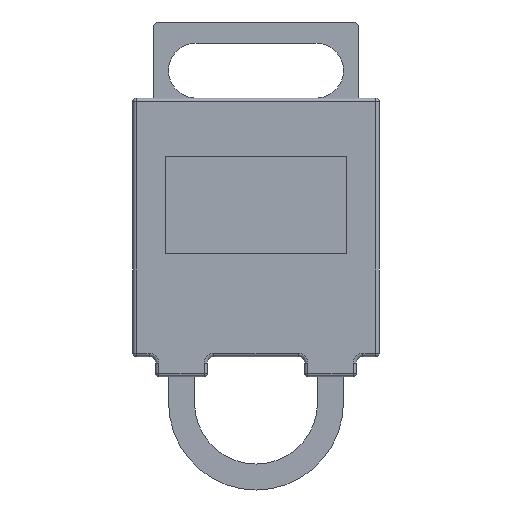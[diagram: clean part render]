
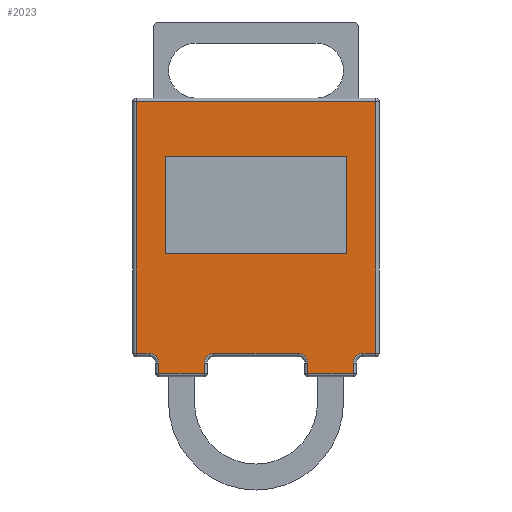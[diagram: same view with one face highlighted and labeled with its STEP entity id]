
A CAD part, front view. The second image highlights one B-rep face of the part: STEP entity #2023.
In plain terms, the highlighted planar face has unit normal (0, -1, 0).
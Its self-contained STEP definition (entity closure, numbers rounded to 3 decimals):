
#156=DIRECTION('',(1.,0.,0.));
#157=VECTOR('',#156,7.);
#158=CARTESIAN_POINT('',(96.44,56.691,7.25));
#159=LINE('',#158,#157);
#179=DIRECTION('',(0.,0.,1.));
#180=VECTOR('',#179,1.6);
#181=CARTESIAN_POINT('',(103.44,56.691,7.25));
#182=LINE('',#181,#180);
#198=CARTESIAN_POINT('',(104.94,56.691,8.85));
#199=DIRECTION('',(0.,-1.,0.));
#200=DIRECTION('',(0.,0.,1.));
#201=AXIS2_PLACEMENT_3D('',#198,#199,#200);
#203=CARTESIAN_POINT('',(94.94,56.691,8.85));
#204=DIRECTION('',(0.,-1.,0.));
#205=DIRECTION('',(1.,0.,0.));
#206=AXIS2_PLACEMENT_3D('',#203,#204,#205);
#208=CARTESIAN_POINT('',(81.94,56.691,8.85));
#209=DIRECTION('',(0.,-1.,0.));
#210=DIRECTION('',(0.,0.,1.));
#211=AXIS2_PLACEMENT_3D('',#208,#209,#210);
#213=CARTESIAN_POINT('',(71.94,56.691,8.85));
#214=DIRECTION('',(0.,-1.,0.));
#215=DIRECTION('',(1.,0.,0.));
#216=AXIS2_PLACEMENT_3D('',#213,#214,#215);
#222=DIRECTION('',(0.,0.,-1.));
#223=VECTOR('',#222,1.6);
#224=CARTESIAN_POINT('',(96.44,56.691,8.85));
#225=LINE('',#224,#223);
#260=DIRECTION('',(1.,0.,0.));
#261=VECTOR('',#260,13.);
#262=CARTESIAN_POINT('',(81.94,56.691,10.35));
#263=LINE('',#262,#261);
#283=DIRECTION('',(0.,0.,1.));
#284=VECTOR('',#283,1.6);
#285=CARTESIAN_POINT('',(80.44,56.691,7.25));
#286=LINE('',#285,#284);
#306=DIRECTION('',(1.,0.,0.));
#307=VECTOR('',#306,7.);
#308=CARTESIAN_POINT('',(73.44,56.691,7.25));
#309=LINE('',#308,#307);
#325=DIRECTION('',(0.,0.,-1.));
#326=VECTOR('',#325,1.6);
#327=CARTESIAN_POINT('',(73.44,56.691,8.85));
#328=LINE('',#327,#326);
#348=DIRECTION('',(1.,0.,0.));
#349=VECTOR('',#348,2.);
#350=CARTESIAN_POINT('',(69.94,56.691,10.35));
#351=LINE('',#350,#349);
#371=DIRECTION('',(0.,0.,-1.));
#372=VECTOR('',#371,38.9);
#373=CARTESIAN_POINT('',(69.94,56.691,49.25));
#374=LINE('',#373,#372);
#394=DIRECTION('',(-1.,0.,0.));
#395=VECTOR('',#394,37.);
#396=CARTESIAN_POINT('',(106.94,56.691,49.25));
#397=LINE('',#396,#395);
#417=DIRECTION('',(0.,0.,1.));
#418=VECTOR('',#417,38.9);
#419=CARTESIAN_POINT('',(106.94,56.691,10.35));
#420=LINE('',#419,#418);
#440=DIRECTION('',(1.,0.,0.));
#441=VECTOR('',#440,2.);
#442=CARTESIAN_POINT('',(104.94,56.691,10.35));
#443=LINE('',#442,#441);
#448=DIRECTION('',(0.,0.,-1.));
#449=VECTOR('',#448,15.);
#450=CARTESIAN_POINT('',(102.44,56.691,40.75));
#451=LINE('',#450,#449);
#456=DIRECTION('',(-1.,0.,0.));
#457=VECTOR('',#456,28.);
#458=CARTESIAN_POINT('',(102.44,56.691,25.75));
#459=LINE('',#458,#457);
#464=DIRECTION('',(0.,0.,1.));
#465=VECTOR('',#464,15.);
#466=CARTESIAN_POINT('',(74.44,56.691,25.75));
#467=LINE('',#466,#465);
#472=DIRECTION('',(1.,0.,0.));
#473=VECTOR('',#472,28.);
#474=CARTESIAN_POINT('',(74.44,56.691,40.75));
#475=LINE('',#474,#473);
#1363=CARTESIAN_POINT('',(80.44,56.691,7.25));
#1364=VERTEX_POINT('',#1363);
#1365=CARTESIAN_POINT('',(73.44,56.691,7.25));
#1366=VERTEX_POINT('',#1365);
#1423=CARTESIAN_POINT('',(103.44,56.691,7.25));
#1424=VERTEX_POINT('',#1423);
#1425=CARTESIAN_POINT('',(96.44,56.691,7.25));
#1426=VERTEX_POINT('',#1425);
#1427=CARTESIAN_POINT('',(96.44,56.691,8.85));
#1428=VERTEX_POINT('',#1427);
#1429=CARTESIAN_POINT('',(94.94,56.691,10.35));
#1430=VERTEX_POINT('',#1429);
#1431=CARTESIAN_POINT('',(81.94,56.691,10.35));
#1432=VERTEX_POINT('',#1431);
#1433=CARTESIAN_POINT('',(80.44,56.691,8.85));
#1434=VERTEX_POINT('',#1433);
#1435=CARTESIAN_POINT('',(104.94,56.691,10.35));
#1436=CARTESIAN_POINT('',(103.44,56.691,8.85));
#1437=VERTEX_POINT('',#1435);
#1438=VERTEX_POINT('',#1436);
#1439=CARTESIAN_POINT('',(73.44,56.691,8.85));
#1440=VERTEX_POINT('',#1439);
#1441=CARTESIAN_POINT('',(71.94,56.691,10.35));
#1442=VERTEX_POINT('',#1441);
#1443=CARTESIAN_POINT('',(69.94,56.691,10.35));
#1444=VERTEX_POINT('',#1443);
#1445=CARTESIAN_POINT('',(69.94,56.691,49.25));
#1446=VERTEX_POINT('',#1445);
#1447=CARTESIAN_POINT('',(106.94,56.691,49.25));
#1448=VERTEX_POINT('',#1447);
#1449=CARTESIAN_POINT('',(106.94,56.691,10.35));
#1450=VERTEX_POINT('',#1449);
#1451=CARTESIAN_POINT('',(102.44,56.691,40.75));
#1452=CARTESIAN_POINT('',(102.44,56.691,25.75));
#1453=VERTEX_POINT('',#1451);
#1454=VERTEX_POINT('',#1452);
#1455=CARTESIAN_POINT('',(74.44,56.691,40.75));
#1456=VERTEX_POINT('',#1455);
#1457=CARTESIAN_POINT('',(74.44,56.691,25.75));
#1458=VERTEX_POINT('',#1457);
#1977=CARTESIAN_POINT('',(106.94,56.691,49.25));
#1978=DIRECTION('',(0.,-1.,0.));
#1979=DIRECTION('',(0.,0.,-1.));
#1980=AXIS2_PLACEMENT_3D('',#1977,#1978,#1979);
#1981=PLANE('',#1980);
#1982=ORIENTED_EDGE('',*,*,#1969,.T.);
#1983=ORIENTED_EDGE('',*,*,#1958,.F.);
#1984=ORIENTED_EDGE('',*,*,#1932,.F.);
#1986=ORIENTED_EDGE('',*,*,#1985,.F.);
#1988=ORIENTED_EDGE('',*,*,#1987,.T.);
#1990=ORIENTED_EDGE('',*,*,#1989,.F.);
#1992=ORIENTED_EDGE('',*,*,#1991,.T.);
#1994=ORIENTED_EDGE('',*,*,#1993,.F.);
#1996=ORIENTED_EDGE('',*,*,#1995,.F.);
#1998=ORIENTED_EDGE('',*,*,#1997,.F.);
#2000=ORIENTED_EDGE('',*,*,#1999,.T.);
#2002=ORIENTED_EDGE('',*,*,#2001,.F.);
#2004=ORIENTED_EDGE('',*,*,#2003,.F.);
#2006=ORIENTED_EDGE('',*,*,#2005,.F.);
#2008=ORIENTED_EDGE('',*,*,#2007,.F.);
#2010=ORIENTED_EDGE('',*,*,#2009,.F.);
#2011=EDGE_LOOP('',(#1982,#1983,#1984,#1986,#1988,#1990,#1992,#1994,#1996,#1998,
#2000,#2002,#2004,#2006,#2008,#2010));
#2012=FACE_OUTER_BOUND('',#2011,.F.);
#2014=ORIENTED_EDGE('',*,*,#2013,.F.);
#2016=ORIENTED_EDGE('',*,*,#2015,.F.);
#2018=ORIENTED_EDGE('',*,*,#2017,.F.);
#2020=ORIENTED_EDGE('',*,*,#2019,.F.);
#2021=EDGE_LOOP('',(#2014,#2016,#2018,#2020));
#2022=FACE_BOUND('',#2021,.F.);
#2023=ADVANCED_FACE('',(#2012,#2022),#1981,.T.);
#202=CIRCLE('',#201,1.5);
#207=CIRCLE('',#206,1.5);
#212=CIRCLE('',#211,1.5);
#217=CIRCLE('',#216,1.5);
#1932=EDGE_CURVE('',#1426,#1424,#159,.T.);
#1958=EDGE_CURVE('',#1424,#1438,#182,.T.);
#1969=EDGE_CURVE('',#1437,#1438,#202,.T.);
#1985=EDGE_CURVE('',#1428,#1426,#225,.T.);
#1987=EDGE_CURVE('',#1428,#1430,#207,.T.);
#1989=EDGE_CURVE('',#1432,#1430,#263,.T.);
#1991=EDGE_CURVE('',#1432,#1434,#212,.T.);
#1993=EDGE_CURVE('',#1364,#1434,#286,.T.);
#1995=EDGE_CURVE('',#1366,#1364,#309,.T.);
#1997=EDGE_CURVE('',#1440,#1366,#328,.T.);
#1999=EDGE_CURVE('',#1440,#1442,#217,.T.);
#2001=EDGE_CURVE('',#1444,#1442,#351,.T.);
#2003=EDGE_CURVE('',#1446,#1444,#374,.T.);
#2005=EDGE_CURVE('',#1448,#1446,#397,.T.);
#2007=EDGE_CURVE('',#1450,#1448,#420,.T.);
#2009=EDGE_CURVE('',#1437,#1450,#443,.T.);
#2013=EDGE_CURVE('',#1453,#1454,#451,.T.);
#2015=EDGE_CURVE('',#1456,#1453,#475,.T.);
#2017=EDGE_CURVE('',#1458,#1456,#467,.T.);
#2019=EDGE_CURVE('',#1454,#1458,#459,.T.);
